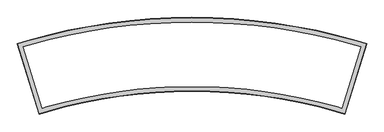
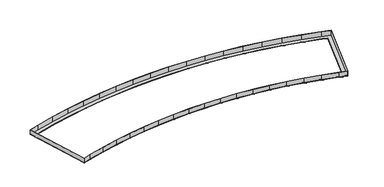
"""IFC4 building model written with IfcOpenShell, lengths in millimetres: proxy geometry, Techno_Конвектор встраиваемый_Usual_KVZ_R-250_85 : KVZ R 250-85_П."""

from ifc_helpers import new_model, si_unit, frame, origin, place, context, project, spatial, ellipse_curve, source, transform, mapped, element, save
from ifc_brep_helpers import plane_surface, cylinder_surface, advanced_brep


def mechanical_equipment_65362983(model_context):
    return source(origin(), model_context, "Body", "AdvancedBrep", [
        advanced_brep(
        [(1071.2645086, 26.0483001, -19.3), (1071.2645086, 26.0483001, -20.5), (1007.5518166, -182.4335765, -20.5), (1007.5518166, -182.4335765, -19.3), (1089.7437729, 35.8766668, 0.0), (1089.7437729, 35.8766668, -19.3), (1017.3801833, -200.9128408, -19.3), (1017.3801833, -200.9128408, 0.0), (1091.2420916, 36.6735614, -18.5), (1091.2420916, 36.6735614, 0.0), (1018.1770778, -202.4111595, 0.0), (1018.1770778, -202.4111595, -18.5), (-7.5518166, -182.4335765, -19.3), (-7.5518166, -182.4335765, -20.5), (-71.2645086, 26.0483001, -20.5), (-71.2645086, 26.0483001, -19.3), (-17.3801833, -200.9128408, 0.0), (-17.3801833, -200.9128408, -19.3), (-89.7437729, 35.8766668, -19.3), (-89.7437729, 35.8766668, 0.0), (-18.1770778, -202.4111595, -18.5), (-18.1770778, -202.4111595, 0.0), (-91.2420916, 36.6735614, 0.0), (-91.2420916, 36.6735614, -18.5), (1088.7448938, 35.3454037, -20.5), (1016.8489202, -199.9139616, -20.5), (-16.8489202, -199.9139616, -20.5), (-88.7448938, 35.3454037, -20.5), (-57.4855296, 46.9896688, -18.5), (-56.9343823, 45.0667922, -20.5), (-53.0763509, 31.6066561, -20.5), (-53.0763509, 31.6066561, -19.3), (-57.1548412, 45.8359429, -19.3), (-57.1548412, 45.8359429, 0.0), (-57.4855296, 46.9896688, 0.0), (10.7062704, 65.2540777, -18.5), (11.1900012, 63.3131444, -20.5), (14.576117, 49.726611, -20.5), (14.576117, 49.726611, -19.3), (10.9965089, 64.0895177, -19.3), (10.9965089, 64.0895177, 0.0), (10.7062704, 65.2540777, 0.0), (988.5921127, -193.3699047, -18.5), (989.14326, -191.4470281, -20.5), (993.0012914, -177.986892, -20.5), (993.0012914, -177.986892, -19.3), (988.9228011, -192.2161787, -19.3), (988.9228011, -192.2161787, 0.0), (988.5921127, -193.3699047, 0.0), (928.8273765, -177.3625903, -18.5), (929.3111073, -175.421657, -20.5), (932.6972231, -161.8351236, -20.5), (932.6972231, -161.8351236, -19.3), (929.117615, -176.1980303, -19.3), (929.117615, -176.1980303, 0.0), (928.8273765, -177.3625903, 0.0), (79.4937304, 81.1284458, -18.5), (79.9094559, 79.1718185, -20.5), (82.8195338, 65.4754279, -20.5), (82.8195338, 65.4754279, -19.3), (79.7431657, 79.9544694, -19.3), (79.7431657, 79.9544694, 0.0), (79.4937304, 81.1284458, 0.0), (868.5405912, -163.4499583, -18.5), (868.9563166, -161.4933311, -20.5), (871.8663946, -147.7969405, -20.5), (871.8663946, -147.7969405, -19.3), (868.7900264, -162.275982, -19.3), (868.7900264, -162.275982, 0.0), (868.5405912, -163.4499583, 0.0), (148.7931095, 94.5934477, -18.5), (149.1403234, 92.6235085, -20.5), (151.570821, 78.8339345, -20.5), (151.570821, 78.8339345, -19.3), (149.0014379, 93.4114842, -19.3), (149.0014379, 93.4114842, 0.0), (148.7931095, 94.5934477, 0.0), (218.5200435, 105.6326913, -18.5), (218.7983232, 103.6518384, -20.5), (220.7462814, 89.7858682, -20.5), (220.7462814, 89.7858682, -19.3), (218.6870113, 104.4441796, -19.3), (218.6870113, 104.4441796, 0.0), (218.5200435, 105.6326913, 0.0), (807.8051492, -151.6489458, -18.5), (808.1523631, -149.6790066, -20.5), (810.5828606, -135.8894326, -20.5), (810.5828606, -135.8894326, -19.3), (808.0134776, -150.4669823, -19.3), (808.0134776, -150.4669823, 0.0), (807.8051492, -151.6489458, 0.0), (746.6949891, -141.9739191, -18.5), (746.9732688, -139.9930662, -20.5), (748.921227, -126.127096, -20.5), (748.921227, -126.127096, -19.3), (746.8619569, -140.7854074, -19.3), (746.8619569, -140.7854074, 0.0), (746.6949891, -141.9739191, 0.0), (288.5896476, 114.2327376, -18.5), (288.7986544, 112.2433825, -20.5), (290.2617018, 98.3178964, -20.5), (290.2617018, 98.3178964, -19.3), (288.7150516, 113.0391246, -19.3), (288.7150516, 113.0391246, 0.0), (288.5896476, 114.2327376, 0.0), (358.91662, 120.3831171, -18.5), (359.0560994, 118.3876815, -20.5), (360.0324549, 104.4196323, -20.5), (360.0324549, 104.4196323, -19.3), (359.0003076, 119.1858557, -19.3), (359.0003076, 119.1858557, 0.0), (358.91662, 120.3831171, 0.0), (429.4153456, 124.0763423, -18.5), (429.4851277, 122.0772555, -20.5), (429.9736028, 108.0836476, -20.5), (429.9736028, 108.0836476, -19.3), (429.4572149, 122.8768902, -19.3), (429.4572149, 122.8768902, 0.0), (429.4153456, 124.0763423, 0.0), (500.0, 125.3079171, -18.5), (500.0, 123.3076127, -20.5), (500.0, 109.3054818, -20.5), (500.0, 109.3054818, -19.3), (500.0, 124.1077345, -19.3), (500.0, 124.1077345, 0.0), (500.0, 125.3079171, 0.0), (570.5846544, 124.0763423, -18.5), (570.5148723, 122.0772555, -20.5), (570.0263972, 108.0836476, -20.5), (570.0263972, 108.0836476, -19.3), (570.5427851, 122.8768902, -19.3), (570.5427851, 122.8768902, 0.0), (570.5846544, 124.0763423, 0.0), (685.2845056, -134.4366565, -18.5), (685.4935124, -132.4473014, -20.5), (686.9565598, -118.5218153, -20.5), (686.9565598, -118.5218153, -19.3), (685.4099097, -133.2430434, -19.3), (685.4099097, -133.2430434, 0.0), (685.2845056, -134.4366565, 0.0), (623.6484591, -129.0463338, -18.5), (623.7879385, -127.0508982, -20.5), (624.764294, -113.082849, -20.5), (624.764294, -113.082849, -19.3), (623.7321467, -127.8490725, -19.3), (623.7321467, -127.8490725, 0.0), (623.6484591, -129.0463338, 0.0), (561.8618845, -125.8095131, -18.5), (561.9316666, -123.8104263, -20.5), (562.4201418, -109.8168184, -20.5), (562.4201418, -109.8168184, -19.3), (561.9037538, -124.610061, -19.3), (561.9037538, -124.610061, 0.0), (561.8618845, -125.8095131, 0.0), (500.0, -124.7301349, -18.5), (500.0, -122.7298305, -20.5), (500.0, -108.7276996, -20.5), (500.0, -108.7276996, -19.3), (500.0, -123.5299523, -19.3), (500.0, -123.5299523, 0.0), (500.0, -124.7301349, 0.0), (438.1381155, -125.8095131, -18.5), (438.0683334, -123.8104263, -20.5), (437.5798582, -109.8168184, -20.5), (437.5798582, -109.8168184, -19.3), (438.0962462, -124.610061, -19.3), (438.0962462, -124.610061, 0.0), (438.1381155, -125.8095131, 0.0), (641.08338, 120.3831171, -18.5), (640.9439006, 118.3876815, -20.5), (639.9675451, 104.4196323, -20.5), (639.9675451, 104.4196323, -19.3), (640.9996924, 119.1858557, -19.3), (640.9996924, 119.1858557, 0.0), (641.08338, 120.3831171, 0.0), (711.4103524, 114.2327376, -18.5), (711.2013456, 112.2433825, -20.5), (709.7382982, 98.3178964, -20.5), (709.7382982, 98.3178964, -19.3), (711.2849484, 113.0391246, -19.3), (711.2849484, 113.0391246, 0.0), (711.4103524, 114.2327376, 0.0), (781.4799565, 105.6326913, -18.5), (781.2016768, 103.6518384, -20.5), (779.2537186, 89.7858682, -20.5), (779.2537186, 89.7858682, -19.3), (781.3129887, 104.4441796, -19.3), (781.3129887, 104.4441796, 0.0), (781.4799565, 105.6326913, 0.0), (851.2068905, 94.5934477, -18.5), (850.8596766, 92.6235085, -20.5), (848.429179, 78.8339345, -20.5), (848.429179, 78.8339345, -19.3), (850.9985621, 93.4114842, -19.3), (850.9985621, 93.4114842, 0.0), (851.2068905, 94.5934477, 0.0), (920.5062696, 81.1284458, -18.5), (920.0905441, 79.1718185, -20.5), (917.1804662, 65.4754279, -20.5), (917.1804662, 65.4754279, -19.3), (920.2568343, 79.9544694, -19.3), (920.2568343, 79.9544694, 0.0), (920.5062696, 81.1284458, 0.0), (989.2937296, 65.2540777, -18.5), (988.8099988, 63.3131444, -20.5), (985.423883, 49.726611, -20.5), (985.423883, 49.726611, -19.3), (989.0034911, 64.0895177, -19.3), (989.0034911, 64.0895177, 0.0), (989.2937296, 65.2540777, 0.0), (1057.4855296, 46.9896688, -18.5), (1056.9343823, 45.0667922, -20.5), (1053.0763509, 31.6066561, -20.5), (1053.0763509, 31.6066561, -19.3), (1057.1548412, 45.8359429, -19.3), (1057.1548412, 45.8359429, 0.0), (1057.4855296, 46.9896688, 0.0), (376.3515409, -129.0463338, -18.5), (376.2120615, -127.0508982, -20.5), (375.235706, -113.082849, -20.5), (375.235706, -113.082849, -19.3), (376.2678533, -127.8490725, -19.3), (376.2678533, -127.8490725, 0.0), (376.3515409, -129.0463338, 0.0), (314.7154944, -134.4366565, -18.5), (314.5064876, -132.4473014, -20.5), (313.0434402, -118.5218153, -20.5), (313.0434402, -118.5218153, -19.3), (314.5900903, -133.2430434, -19.3), (314.5900903, -133.2430434, 0.0), (314.7154944, -134.4366565, 0.0), (253.3050109, -141.9739191, -18.5), (253.0267312, -139.9930662, -20.5), (251.078773, -126.127096, -20.5), (251.078773, -126.127096, -19.3), (253.1380431, -140.7854074, -19.3), (253.1380431, -140.7854074, 0.0), (253.3050109, -141.9739191, 0.0), (192.1948508, -151.6489458, -18.5), (191.8476369, -149.6790066, -20.5), (189.4171394, -135.8894326, -20.5), (189.4171394, -135.8894326, -19.3), (191.9865224, -150.4669823, -19.3), (191.9865224, -150.4669823, 0.0), (192.1948508, -151.6489458, 0.0), (131.4594088, -163.4499583, -18.5), (131.0436834, -161.4933311, -20.5), (128.1336054, -147.7969405, -20.5), (128.1336054, -147.7969405, -19.3), (131.2099736, -162.275982, -19.3), (131.2099736, -162.275982, 0.0), (131.4594088, -163.4499583, 0.0), (71.1726235, -177.3625903, -18.5), (70.6888927, -175.421657, -20.5), (67.3027769, -161.8351236, -20.5), (67.3027769, -161.8351236, -19.3), (70.882385, -176.1980303, -19.3), (70.882385, -176.1980303, 0.0), (71.1726235, -177.3625903, 0.0), (11.4078873, -193.3699047, -18.5), (10.85674, -191.4470281, -20.5), (6.9987086, -177.986892, -20.5), (6.9987086, -177.986892, -19.3), (11.0771989, -192.2161787, -19.3), (11.0771989, -192.2161787, 0.0), (11.4078873, -193.3699047, 0.0)],
        [
            (0, 1),
            (1, 2),
            (2, 3),
            (3, 0),
            (4, 5),
            (5, 6),
            (6, 7),
            (7, 4),
            (8, 9),
            (9, 10),
            (10, 11),
            (11, 8),
            (12, 13),
            (13, 14),
            (14, 15),
            (15, 12),
            (16, 17),
            (17, 18),
            (18, 19),
            (19, 16),
            (20, 21),
            (21, 22),
            (22, 23),
            (23, 20),
            (24, 8, ellipse_curve(frame((1088.7448938, 35.3454037, -18.5), z_axis=(0.46957464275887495, -0.882892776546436, 0.0), x_axis=(0.882892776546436, 0.46957464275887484, 0.0)), 2.8284271, 2.0)),
            (11, 25, ellipse_curve(frame((1016.8489202, -199.9139616, -18.5), z_axis=(0.8828927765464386, 0.4695746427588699, 0.0), x_axis=(-0.4695746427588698, 0.8828927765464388, 0.0)), 2.8284271, 2.0)),
            (25, 24),
            (26, 20, ellipse_curve(frame((-16.8489202, -199.9139616, -18.5), z_axis=(-0.8828927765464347, 0.46957464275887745, 0.0), x_axis=(-0.46957464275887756, -0.8828927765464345, 0.0)), 2.8284271, 2.0)),
            (23, 27, ellipse_curve(frame((-88.7448938, 35.3454037, -18.5), z_axis=(-0.4695746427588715, -0.8828927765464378, 0.0), x_axis=(0.8828927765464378, -0.4695746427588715, 0.0)), 2.8284271, 2.0)),
            (27, 26),
            (23, 28),
            (28, 29, ellipse_curve(frame((-56.9343823, 45.0667922, -18.5), z_axis=(-0.9612919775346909, -0.2755317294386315, 0.0), x_axis=(0.27553172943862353, -0.9612919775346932, 0.0)), 2.0003044, 2.0)),
            (29, 27),
            (14, 30),
            (30, 31),
            (31, 15),
            (18, 32),
            (32, 33),
            (33, 19),
            (22, 34),
            (34, 28),
            (28, 35),
            (35, 36, ellipse_curve(frame((11.1900012, 63.3131444, -18.5), z_axis=(-0.970318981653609, -0.24182860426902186, 0.0), x_axis=(0.24182860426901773, -0.9703189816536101, 0.0)), 2.0003044, 2.0)),
            (36, 29),
            (30, 37),
            (37, 38),
            (38, 31),
            (32, 39),
            (39, 40),
            (40, 33),
            (34, 41),
            (41, 35),
            (11, 42),
            (42, 43, ellipse_curve(frame((989.14326, -191.4470281, -18.5), z_axis=(0.9612919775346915, -0.2755317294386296, 0.0), x_axis=(-0.2755317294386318, -0.961291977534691, 0.0)), 2.0003044, 2.0)),
            (43, 25),
            (2, 44),
            (44, 45),
            (45, 3),
            (6, 46),
            (46, 47),
            (47, 7),
            (10, 48),
            (48, 42),
            (42, 49),
            (49, 50, ellipse_curve(frame((929.3111073, -175.421657, -18.5), z_axis=(0.9703189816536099, -0.24182860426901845, 0.0), x_axis=(-0.24182860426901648, -0.9703189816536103, 0.0)), 2.0003044, 2.0)),
            (50, 43),
            (44, 51),
            (51, 52),
            (52, 45),
            (46, 53),
            (53, 54),
            (54, 47),
            (48, 55),
            (55, 49),
            (35, 56),
            (56, 57, ellipse_curve(frame((79.9094559, 79.1718185, -18.5), z_axis=(-0.9781647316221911, -0.20783107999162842, 0.0), x_axis=(0.20783107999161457, -0.9781647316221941, 0.0)), 2.0003044, 2.0)),
            (57, 36),
            (37, 58),
            (58, 59),
            (59, 38),
            (39, 60),
            (60, 61),
            (61, 40),
            (41, 62),
            (62, 56),
            (49, 63),
            (63, 64, ellipse_curve(frame((868.9563166, -161.4933311, -18.5), z_axis=(0.9781647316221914, -0.20783107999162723, 0.0), x_axis=(-0.20783107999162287, -0.9781647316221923, 0.0)), 2.0003044, 2.0)),
            (64, 50),
            (51, 65),
            (65, 66),
            (66, 52),
            (53, 67),
            (67, 68),
            (68, 54),
            (55, 69),
            (69, 63),
            (56, 70),
            (70, 71, ellipse_curve(frame((149.1403234, 92.6235085, -18.5), z_axis=(-0.9848196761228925, -0.17358054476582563, 0.0), x_axis=(0.1735805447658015, -0.9848196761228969, 0.0)), 2.0003044, 2.0)),
            (71, 57),
            (58, 72),
            (72, 73),
            (73, 59),
            (60, 74),
            (74, 75),
            (75, 61),
            (62, 76),
            (76, 70),
            (70, 77),
            (77, 78, ellipse_curve(frame((218.7983232, 103.6518384, -18.5), z_axis=(-0.9902757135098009, -0.13911869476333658, 0.0), x_axis=(0.13911869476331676, -0.9902757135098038, 0.0)), 2.0003044, 2.0)),
            (78, 71),
            (72, 79),
            (79, 80),
            (80, 73),
            (74, 81),
            (81, 82),
            (82, 75),
            (76, 83),
            (83, 77),
            (63, 84),
            (84, 85, ellipse_curve(frame((808.1523631, -149.6790066, -18.5), z_axis=(0.9848196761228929, -0.1735805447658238, 0.0), x_axis=(-0.17358054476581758, -0.9848196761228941, 0.0)), 2.0003044, 2.0)),
            (85, 64),
            (65, 86),
            (86, 87),
            (87, 66),
            (67, 88),
            (88, 89),
            (89, 68),
            (69, 90),
            (90, 84),
            (84, 91),
            (91, 92, ellipse_curve(frame((746.9732688, -139.9930662, -18.5), z_axis=(0.9902757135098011, -0.139118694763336, 0.0), x_axis=(-0.13911869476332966, -0.9902757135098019, 0.0)), 2.0003044, 2.0)),
            (92, 85),
            (86, 93),
            (93, 94),
            (94, 87),
            (88, 95),
            (95, 96),
            (96, 89),
            (90, 97),
            (97, 91),
            (77, 98),
            (98, 99, ellipse_curve(frame((288.7986544, 112.2433825, -18.5), z_axis=(-0.9945262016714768, -0.104487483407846, 0.0), x_axis=(0.104487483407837, -0.9945262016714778, 0.0)), 2.0003044, 2.0)),
            (99, 78),
            (79, 100),
            (100, 101),
            (101, 80),
            (81, 102),
            (102, 103),
            (103, 82),
            (83, 104),
            (104, 98),
            (98, 105),
            (105, 106, ellipse_curve(frame((359.0560994, 118.3876815, -18.5), z_axis=(-0.9975659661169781, -0.06972907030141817, 0.0), x_axis=(0.0697290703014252, -0.9975659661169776, 0.0)), 2.0003044, 2.0)),
            (106, 99),
            (100, 107),
            (107, 108),
            (108, 101),
            (102, 109),
            (109, 110),
            (110, 103),
            (104, 111),
            (111, 105),
            (105, 112),
            (112, 113, ellipse_curve(frame((429.4851277, 122.0772555, -18.5), z_axis=(-0.9993913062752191, -0.03488576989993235, 0.0), x_axis=(0.034885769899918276, -0.9993913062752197, 0.0)), 2.0003044, 2.0)),
            (113, 106),
            (107, 114),
            (114, 115),
            (115, 108),
            (109, 116),
            (116, 117),
            (117, 110),
            (111, 118),
            (118, 112),
            (112, 119),
            (119, 120, ellipse_curve(frame((500.0, 123.3076127, -18.5), z_axis=(-1.0, 0.0, 0.0), x_axis=(0.0, -1.0, 0.0)), 2.0003044, 2.0)),
            (120, 113),
            (114, 121),
            (121, 122),
            (122, 115),
            (116, 123),
            (123, 124),
            (124, 117),
            (118, 125),
            (125, 119),
            (119, 126),
            (126, 127, ellipse_curve(frame((570.5148723, 122.0772555, -18.5), z_axis=(-0.9993913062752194, 0.034885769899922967, 0.0), x_axis=(-0.03488576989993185, -0.9993913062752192, 0.0)), 2.0003044, 2.0)),
            (127, 120),
            (121, 128),
            (128, 129),
            (129, 122),
            (123, 130),
            (130, 131),
            (131, 124),
            (125, 132),
            (132, 126),
            (91, 133),
            (133, 134, ellipse_curve(frame((685.4935124, -132.4473014, -18.5), z_axis=(0.9945262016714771, -0.10448748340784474, 0.0), x_axis=(-0.10448748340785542, -0.9945262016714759, 0.0)), 2.0003044, 2.0)),
            (134, 92),
            (93, 135),
            (135, 136),
            (136, 94),
            (95, 137),
            (137, 138),
            (138, 96),
            (97, 139),
            (139, 133),
            (133, 140),
            (140, 141, ellipse_curve(frame((623.7879385, -127.0508982, -18.5), z_axis=(0.9975659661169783, -0.06972907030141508, 0.0), x_axis=(-0.06972907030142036, -0.997565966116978, 0.0)), 2.0003044, 2.0)),
            (141, 134),
            (135, 142),
            (142, 143),
            (143, 136),
            (137, 144),
            (144, 145),
            (145, 138),
            (139, 146),
            (146, 140),
            (140, 147),
            (147, 148, ellipse_curve(frame((561.9316666, -123.8104263, -18.5), z_axis=(0.9993913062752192, -0.03488576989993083, 0.0), x_axis=(-0.03488576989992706, -0.9993913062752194, 0.0)), 2.0003044, 2.0)),
            (148, 141),
            (142, 149),
            (149, 150),
            (150, 143),
            (144, 151),
            (151, 152),
            (152, 145),
            (146, 153),
            (153, 147),
            (147, 154),
            (154, 155, ellipse_curve(frame((500.0, -122.7298305, -18.5), z_axis=(1.0, 0.0, 0.0), x_axis=(0.0, -1.0, 0.0)), 2.0003044, 2.0)),
            (155, 148),
            (149, 156),
            (156, 157),
            (157, 150),
            (151, 158),
            (158, 159),
            (159, 152),
            (153, 160),
            (160, 154),
            (154, 161),
            (161, 162, ellipse_curve(frame((438.0683334, -123.8104263, -18.5), z_axis=(0.9993913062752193, 0.03488576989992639, 0.0), x_axis=(0.03488576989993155, -0.9993913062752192, 0.0)), 2.0003044, 2.0)),
            (162, 155),
            (156, 163),
            (163, 164),
            (164, 157),
            (158, 165),
            (165, 166),
            (166, 159),
            (160, 167),
            (167, 161),
            (126, 168),
            (168, 169, ellipse_curve(frame((640.9439006, 118.3876815, -18.5), z_axis=(-0.9975659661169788, 0.06972907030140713, 0.0), x_axis=(-0.06972907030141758, -0.997565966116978, 0.0)), 2.0003044, 2.0)),
            (169, 127),
            (128, 170),
            (170, 171),
            (171, 129),
            (130, 172),
            (172, 173),
            (173, 131),
            (132, 174),
            (174, 168),
            (168, 175),
            (175, 176, ellipse_curve(frame((711.2013456, 112.2433825, -18.5), z_axis=(-0.9945262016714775, 0.10448748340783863, 0.0), x_axis=(-0.10448748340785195, -0.9945262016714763, 0.0)), 2.0003044, 2.0)),
            (176, 169),
            (170, 177),
            (177, 178),
            (178, 171),
            (172, 179),
            (179, 180),
            (180, 173),
            (174, 181),
            (181, 175),
            (175, 182),
            (182, 183, ellipse_curve(frame((781.2016768, 103.6518384, -18.5), z_axis=(-0.9902757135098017, 0.13911869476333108, 0.0), x_axis=(-0.13911869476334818, -0.9902757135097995, 0.0)), 2.0003044, 2.0)),
            (183, 176),
            (177, 184),
            (184, 185),
            (185, 178),
            (179, 186),
            (186, 187),
            (187, 180),
            (181, 188),
            (188, 182),
            (182, 189),
            (189, 190, ellipse_curve(frame((850.8596766, 92.6235085, -18.5), z_axis=(-0.9848196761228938, 0.1735805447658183, 0.0), x_axis=(-0.17358054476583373, -0.9848196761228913, 0.0)), 2.0003044, 2.0)),
            (190, 183),
            (184, 191),
            (191, 192),
            (192, 185),
            (186, 193),
            (193, 194),
            (194, 187),
            (188, 195),
            (195, 189),
            (189, 196),
            (196, 197, ellipse_curve(frame((920.0905441, 79.1718185, -18.5), z_axis=(-0.9781647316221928, 0.2078310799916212, 0.0), x_axis=(-0.20783107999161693, -0.9781647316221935, 0.0)), 2.0003044, 2.0)),
            (197, 190),
            (191, 198),
            (198, 199),
            (199, 192),
            (193, 200),
            (200, 201),
            (201, 194),
            (195, 202),
            (202, 196),
            (196, 203),
            (203, 204, ellipse_curve(frame((988.8099988, 63.3131444, -18.5), z_axis=(-0.9703189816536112, 0.24182860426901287, 0.0), x_axis=(-0.2418286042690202, -0.9703189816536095, 0.0)), 2.0003044, 2.0)),
            (204, 197),
            (198, 205),
            (205, 206),
            (206, 199),
            (200, 207),
            (207, 208),
            (208, 201),
            (202, 209),
            (209, 203),
            (203, 210),
            (210, 211, ellipse_curve(frame((1056.9343823, 45.0667922, -18.5), z_axis=(-0.9612919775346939, 0.2755317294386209, 0.0), x_axis=(-0.27553172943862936, -0.9612919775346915, 0.0)), 2.0003044, 2.0)),
            (211, 204),
            (205, 212),
            (212, 213),
            (213, 206),
            (207, 214),
            (214, 215),
            (215, 208),
            (209, 216),
            (216, 210),
            (161, 217),
            (217, 218, ellipse_curve(frame((376.2120615, -127.0508982, -18.5), z_axis=(0.9975659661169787, 0.0697290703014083, 0.0), x_axis=(0.06972907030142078, -0.9975659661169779, 0.0)), 2.0003044, 2.0)),
            (218, 162),
            (163, 219),
            (219, 220),
            (220, 164),
            (165, 221),
            (221, 222),
            (222, 166),
            (167, 223),
            (223, 217),
            (217, 224),
            (224, 225, ellipse_curve(frame((314.5064876, -132.4473014, -18.5), z_axis=(0.9945262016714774, 0.10448748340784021, 0.0), x_axis=(0.104487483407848, -0.9945262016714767, 0.0)), 2.0003044, 2.0)),
            (225, 218),
            (219, 226),
            (226, 227),
            (227, 220),
            (221, 228),
            (228, 229),
            (229, 222),
            (223, 230),
            (230, 224),
            (224, 231),
            (231, 232, ellipse_curve(frame((253.0267312, -139.9930662, -18.5), z_axis=(0.9902757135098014, 0.13911869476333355, 0.0), x_axis=(0.13911869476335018, -0.9902757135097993, 0.0)), 2.0003044, 2.0)),
            (232, 225),
            (226, 233),
            (233, 234),
            (234, 227),
            (228, 235),
            (235, 236),
            (236, 229),
            (230, 237),
            (237, 231),
            (231, 238),
            (238, 239, ellipse_curve(frame((191.8476369, -149.6790066, -18.5), z_axis=(0.9848196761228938, 0.17358054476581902, 0.0), x_axis=(0.17358054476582, -0.9848196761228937, 0.0)), 2.0003044, 2.0)),
            (239, 232),
            (233, 240),
            (240, 241),
            (241, 234),
            (235, 242),
            (242, 243),
            (243, 236),
            (237, 244),
            (244, 238),
            (238, 245),
            (245, 246, ellipse_curve(frame((131.0436834, -161.4933311, -18.5), z_axis=(0.9781647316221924, 0.20783107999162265, 0.0), x_axis=(0.207831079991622, -0.9781647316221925, 0.0)), 2.0003044, 2.0)),
            (246, 239),
            (240, 247),
            (247, 248),
            (248, 241),
            (242, 249),
            (249, 250),
            (250, 243),
            (244, 251),
            (251, 245),
            (245, 252),
            (252, 253, ellipse_curve(frame((70.6888927, -175.421657, -18.5), z_axis=(0.9703189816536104, 0.2418286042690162, 0.0), x_axis=(0.24182860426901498, -0.9703189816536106, 0.0)), 2.0003044, 2.0)),
            (253, 246),
            (247, 254),
            (254, 255),
            (255, 248),
            (249, 256),
            (256, 257),
            (257, 250),
            (251, 258),
            (258, 252),
            (252, 259),
            (259, 260, ellipse_curve(frame((10.85674, -191.4470281, -18.5), z_axis=(0.9612919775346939, 0.27553172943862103, 0.0), x_axis=(0.27553172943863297, -0.9612919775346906, 0.0)), 2.0003044, 2.0)),
            (260, 253),
            (254, 261),
            (261, 262),
            (262, 255),
            (256, 263),
            (263, 264),
            (264, 257),
            (258, 265),
            (265, 259),
            (210, 8),
            (24, 211),
            (212, 1),
            (0, 213),
            (214, 5),
            (4, 215),
            (216, 9),
            (259, 20),
            (26, 260),
            (13, 261),
            (12, 262),
            (17, 263),
            (16, 264),
            (21, 265),
        ],
        [
            plane_surface(frame((1071.2645086, 26.0483001, -20.5), z_axis=(-0.9563388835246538, 0.29226005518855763, 0.0), x_axis=(-0.29226005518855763, -0.9563388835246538, 0.0))),
            plane_surface(frame((1089.7437729, 35.8766668, -19.3), z_axis=(-0.9563388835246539, 0.29226005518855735, 0.0), x_axis=(-0.29226005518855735, -0.9563388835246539, 0.0))),
            plane_surface(frame((1091.2420916, 36.6735614, 0.0), z_axis=(0.9563388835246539, -0.2922600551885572, 0.0), x_axis=(-0.2922600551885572, -0.9563388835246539, 0.0))),
            plane_surface(frame((-7.5518166, -182.4335765, -20.5), z_axis=(0.9563388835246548, 0.2922600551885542, 0.0), x_axis=(-0.2922600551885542, 0.9563388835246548, 0.0))),
            plane_surface(frame((-17.3801833, -200.9128408, -19.3), z_axis=(0.9563388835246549, 0.29226005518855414, 0.0), x_axis=(-0.29226005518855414, 0.9563388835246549, 0.0))),
            plane_surface(frame((-18.1770778, -202.4111595, 0.0), z_axis=(-0.9563388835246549, -0.2922600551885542, 0.0), x_axis=(-0.2922600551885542, 0.9563388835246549, 0.0))),
            cylinder_surface(frame((1089.3294139, 37.2580815, -18.5), z_axis=(0.2922600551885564, 0.9563388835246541, 0.0), x_axis=(0.9563388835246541, -0.2922600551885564, 0.0)), 2.0),
            cylinder_surface(frame((-16.2644001, -201.8266394, -18.5), z_axis=(0.29226005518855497, -0.9563388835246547, 0.0), x_axis=(-0.9563388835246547, -0.29226005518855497, 0.0)), 2.0),
            cylinder_surface(frame((-90.6575715, 34.7608836, -18.5), z_axis=(-0.9563388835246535, -0.29226005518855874, 0.0), x_axis=(-0.29226005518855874, 0.9563388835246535, 0.0)), 2.0),
            plane_surface(frame((-71.2645086, 26.0483001, -20.5), z_axis=(0.2922600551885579, -0.9563388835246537, 0.0), x_axis=(0.9563388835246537, 0.2922600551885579, 0.0))),
            plane_surface(frame((-89.7437729, 35.8766668, -19.3), z_axis=(0.2922600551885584, -0.9563388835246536, 0.0), x_axis=(0.9563388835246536, 0.2922600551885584, 0.0))),
            plane_surface(frame((-91.2420916, 36.6735614, 0.0), z_axis=(-0.292260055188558, 0.9563388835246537, 0.0), x_axis=(0.9563388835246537, 0.292260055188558, 0.0))),
            cylinder_surface(frame((-56.9680905, 45.0577639, -18.5), z_axis=(-0.9659524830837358, -0.2587195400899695, 0.0), x_axis=(-0.2587195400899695, 0.9659524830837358, 0.0)), 2.0),
            plane_surface(frame((-53.0763509, 31.6066561, -20.5), z_axis=(0.2587195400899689, -0.9659524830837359, 0.0), x_axis=(0.9659524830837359, 0.2587195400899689, 0.0))),
            plane_surface(frame((-57.1548412, 45.8359429, -19.3), z_axis=(0.2587195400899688, -0.9659524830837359, 0.0), x_axis=(0.9659524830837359, 0.2587195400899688, 0.0))),
            plane_surface(frame((-57.4855296, 46.9896688, 0.0), z_axis=(-0.25871954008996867, 0.9659524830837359, 0.0), x_axis=(0.9659524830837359, 0.25871954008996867, 0.0))),
            cylinder_surface(frame((1018.761598, -200.4984817, -18.5), z_axis=(0.9563388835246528, -0.2922600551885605, 0.0), x_axis=(-0.2922600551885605, -0.9563388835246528, 0.0)), 2.0),
            plane_surface(frame((1007.5518166, -182.4335765, -20.5), z_axis=(0.29226005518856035, 0.9563388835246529, 0.0), x_axis=(-0.9563388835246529, 0.29226005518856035, 0.0))),
            plane_surface(frame((1017.3801833, -200.9128408, -19.3), z_axis=(0.29226005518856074, 0.9563388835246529, 0.0), x_axis=(-0.9563388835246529, 0.29226005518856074, 0.0))),
            plane_surface(frame((1018.1770778, -202.4111595, 0.0), z_axis=(-0.2922600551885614, -0.9563388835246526, 0.0), x_axis=(-0.9563388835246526, 0.2922600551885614, 0.0))),
            cylinder_surface(frame((989.1095518, -191.4379997, -18.5), z_axis=(0.9659524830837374, -0.2587195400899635, 0.0), x_axis=(-0.2587195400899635, -0.9659524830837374, 0.0)), 2.0),
            plane_surface(frame((993.0012914, -177.986892, -20.5), z_axis=(0.2587195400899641, 0.9659524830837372, 0.0), x_axis=(-0.9659524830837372, 0.2587195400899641, 0.0))),
            plane_surface(frame((988.9228011, -192.2161787, -19.3), z_axis=(0.2587195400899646, 0.965952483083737, 0.0), x_axis=(-0.965952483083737, 0.2587195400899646, 0.0))),
            plane_surface(frame((988.5921127, -193.3699047, 0.0), z_axis=(-0.2587195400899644, -0.965952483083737, 0.0), x_axis=(-0.965952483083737, 0.2587195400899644, 0.0))),
            cylinder_surface(frame((11.1559985, 63.3052974, -18.5), z_axis=(-0.9743901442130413, -0.2248640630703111, 0.0), x_axis=(-0.2248640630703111, 0.9743901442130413, 0.0)), 2.0),
            plane_surface(frame((14.576117, 49.726611, -20.5), z_axis=(0.22486406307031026, -0.9743901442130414, 0.0), x_axis=(0.9743901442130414, 0.22486406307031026, 0.0))),
            plane_surface(frame((10.9965089, 64.0895177, -19.3), z_axis=(0.22486406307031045, -0.9743901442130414, 0.0), x_axis=(0.9743901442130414, 0.22486406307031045, 0.0))),
            plane_surface(frame((10.7062704, 65.2540777, 0.0), z_axis=(-0.22486406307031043, 0.9743901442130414, 0.0), x_axis=(0.9743901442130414, 0.22486406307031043, 0.0))),
            cylinder_surface(frame((929.2771046, -175.41381, -18.5), z_axis=(0.9743901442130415, -0.22486406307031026, 0.0), x_axis=(-0.22486406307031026, -0.9743901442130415, 0.0)), 2.0),
            plane_surface(frame((932.6972231, -161.8351236, -20.5), z_axis=(0.22486406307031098, 0.9743901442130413, 0.0), x_axis=(-0.9743901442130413, 0.22486406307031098, 0.0))),
            plane_surface(frame((929.117615, -176.1980303, -19.3), z_axis=(0.2248640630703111, 0.9743901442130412, 0.0), x_axis=(-0.9743901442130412, 0.2248640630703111, 0.0))),
            plane_surface(frame((928.8273765, -177.3625903, 0.0), z_axis=(-0.22486406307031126, -0.9743901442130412, 0.0), x_axis=(-0.9743901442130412, 0.22486406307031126, 0.0))),
            cylinder_surface(frame((79.8752001, 79.1651626, -18.5), z_axis=(-0.9816415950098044, -0.1907348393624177, 0.0), x_axis=(-0.1907348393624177, 0.9816415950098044, 0.0)), 2.0),
            plane_surface(frame((82.8195338, 65.4754279, -20.5), z_axis=(0.19073483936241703, -0.9816415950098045, 0.0), x_axis=(0.9816415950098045, 0.19073483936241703, 0.0))),
            plane_surface(frame((79.7431657, 79.9544694, -19.3), z_axis=(0.19073483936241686, -0.9816415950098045, 0.0), x_axis=(0.9816415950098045, 0.19073483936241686, 0.0))),
            plane_surface(frame((79.4937304, 81.1284458, 0.0), z_axis=(-0.190734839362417, 0.9816415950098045, 0.0), x_axis=(0.9816415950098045, 0.190734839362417, 0.0))),
            cylinder_surface(frame((149.1058563, 92.6180516, -18.5), z_axis=(-0.9876980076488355, -0.15637341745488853, 0.0), x_axis=(-0.15637341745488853, 0.9876980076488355, 0.0)), 2.0),
            plane_surface(frame((151.570821, 78.8339345, -20.5), z_axis=(0.15637341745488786, -0.9876980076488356, 0.0), x_axis=(0.9876980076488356, 0.15637341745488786, 0.0))),
            plane_surface(frame((149.0014379, 93.4114842, -19.3), z_axis=(0.15637341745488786, -0.9876980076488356, 0.0), x_axis=(0.9876980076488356, 0.15637341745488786, 0.0))),
            plane_surface(frame((148.7931095, 94.5934477, 0.0), z_axis=(-0.15637341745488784, 0.9876980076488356, 0.0), x_axis=(0.9876980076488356, 0.15637341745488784, 0.0))),
            cylinder_surface(frame((868.9220609, -161.4866751, -18.5), z_axis=(0.9816415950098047, -0.19073483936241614, 0.0), x_axis=(-0.19073483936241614, -0.9816415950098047, 0.0)), 2.0),
            plane_surface(frame((871.8663946, -147.7969405, -20.5), z_axis=(0.19073483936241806, 0.9816415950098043, 0.0), x_axis=(-0.9816415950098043, 0.19073483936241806, 0.0))),
            plane_surface(frame((868.7900264, -162.275982, -19.3), z_axis=(0.19073483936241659, 0.9816415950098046, 0.0), x_axis=(-0.9816415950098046, 0.19073483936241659, 0.0))),
            plane_surface(frame((868.5405912, -163.4499583, 0.0), z_axis=(-0.1907348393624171, -0.9816415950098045, 0.0), x_axis=(-0.9816415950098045, 0.1907348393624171, 0.0))),
            cylinder_surface(frame((808.117896, -149.6735498, -18.5), z_axis=(0.9876980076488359, -0.15637341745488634, 0.0), x_axis=(-0.15637341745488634, -0.9876980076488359, 0.0)), 2.0),
            plane_surface(frame((810.5828606, -135.8894326, -20.5), z_axis=(0.1563734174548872, 0.9876980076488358, 0.0), x_axis=(-0.9876980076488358, 0.1563734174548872, 0.0))),
            plane_surface(frame((808.0134776, -150.4669823, -19.3), z_axis=(0.15637341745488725, 0.9876980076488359, 0.0), x_axis=(-0.9876980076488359, 0.15637341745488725, 0.0))),
            plane_surface(frame((807.8051492, -151.6489458, 0.0), z_axis=(-0.1563734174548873, -0.9876980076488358, 0.0), x_axis=(-0.9876980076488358, 0.1563734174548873, 0.0))),
            cylinder_surface(frame((218.7636867, 103.6475873, -18.5), z_axis=(-0.9925520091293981, -0.12182162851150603, 0.0), x_axis=(-0.12182162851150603, 0.9925520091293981, 0.0)), 2.0),
            plane_surface(frame((220.7462814, 89.7858682, -20.5), z_axis=(0.12182162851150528, -0.9925520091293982, 0.0), x_axis=(0.9925520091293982, 0.12182162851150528, 0.0))),
            plane_surface(frame((218.6870113, 104.4441796, -19.3), z_axis=(0.12182162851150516, -0.9925520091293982, 0.0), x_axis=(0.9925520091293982, 0.12182162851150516, 0.0))),
            plane_surface(frame((218.5200435, 105.6326913, 0.0), z_axis=(-0.121821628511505, 0.9925520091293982, 0.0), x_axis=(0.9925520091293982, 0.121821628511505, 0.0))),
            cylinder_surface(frame((288.7638906, 112.2403423, -18.5), z_axis=(-0.9961976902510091, -0.08712153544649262, 0.0), x_axis=(-0.08712153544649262, 0.9961976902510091, 0.0)), 2.0),
            plane_surface(frame((290.2617018, 98.3178964, -20.5), z_axis=(0.08712153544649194, -0.9961976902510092, 0.0), x_axis=(0.9961976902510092, 0.08712153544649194, 0.0))),
            plane_surface(frame((288.7150516, 113.0391246, -19.3), z_axis=(0.0871215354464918, -0.9961976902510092, 0.0), x_axis=(0.9961976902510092, 0.0871215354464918, 0.0))),
            plane_surface(frame((288.5896476, 114.2327376, 0.0), z_axis=(-0.0871215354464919, 0.9961976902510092, 0.0), x_axis=(0.9961976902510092, 0.0871215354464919, 0.0))),
            cylinder_surface(frame((359.0212508, 118.3858559, -18.5), z_axis=(-0.9986306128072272, -0.05231538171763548, 0.0), x_axis=(-0.05231538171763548, 0.9986306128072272, 0.0)), 2.0),
            plane_surface(frame((360.0324549, 104.4196323, -20.5), z_axis=(0.052315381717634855, -0.9986306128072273, 0.0), x_axis=(0.9986306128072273, 0.052315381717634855, 0.0))),
            plane_surface(frame((359.0003076, 119.1858557, -19.3), z_axis=(0.052315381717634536, -0.9986306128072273, 0.0), x_axis=(0.9986306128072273, 0.052315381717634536, 0.0))),
            plane_surface(frame((358.91662, 120.3831171, 0.0), z_axis=(-0.052315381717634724, 0.9986306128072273, 0.0), x_axis=(0.9986306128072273, 0.052315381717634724, 0.0))),
            cylinder_surface(frame((429.4502366, 122.0766467, -18.5), z_axis=(-0.9998478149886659, -0.017445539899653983, 0.0), x_axis=(-0.017445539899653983, 0.9998478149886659, 0.0)), 2.0),
            plane_surface(frame((429.9736028, 108.0836476, -20.5), z_axis=(0.017445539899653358, -0.9998478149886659, 0.0), x_axis=(0.9998478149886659, 0.017445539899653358, 0.0))),
            plane_surface(frame((429.4572149, 122.8768902, -19.3), z_axis=(0.017445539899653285, -0.9998478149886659, 0.0), x_axis=(0.9998478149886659, 0.017445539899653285, 0.0))),
            plane_surface(frame((429.4153456, 124.0763423, 0.0), z_axis=(-0.01744553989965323, 0.9998478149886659, 0.0), x_axis=(0.9998478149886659, 0.01744553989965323, 0.0))),
            cylinder_surface(frame((499.9651089, 123.3082215, -18.5), z_axis=(-0.999847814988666, 0.0174455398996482, 0.0), x_axis=(0.0174455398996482, 0.999847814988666, 0.0)), 2.0),
            plane_surface(frame((500.0, 109.3054818, -20.5), z_axis=(-0.017445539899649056, -0.999847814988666, 0.0), x_axis=(0.999847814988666, -0.017445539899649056, 0.0))),
            plane_surface(frame((500.0, 124.1077345, -19.3), z_axis=(-0.017445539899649, -0.999847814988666, 0.0), x_axis=(0.999847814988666, -0.017445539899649, 0.0))),
            plane_surface(frame((500.0, 125.3079171, 0.0), z_axis=(0.017445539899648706, 0.999847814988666, 0.0), x_axis=(0.999847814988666, -0.017445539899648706, 0.0))),
            cylinder_surface(frame((746.9386324, -139.9888151, -18.5), z_axis=(0.992552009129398, -0.12182162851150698, 0.0), x_axis=(-0.12182162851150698, -0.992552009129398, 0.0)), 2.0),
            plane_surface(frame((748.921227, -126.127096, -20.5), z_axis=(0.12182162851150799, 0.9925520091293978, 0.0), x_axis=(-0.9925520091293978, 0.12182162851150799, 0.0))),
            plane_surface(frame((746.8619569, -140.7854074, -19.3), z_axis=(0.1218216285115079, 0.9925520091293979, 0.0), x_axis=(-0.9925520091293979, 0.1218216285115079, 0.0))),
            plane_surface(frame((746.6949891, -141.9739191, 0.0), z_axis=(-0.12182162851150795, -0.9925520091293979, 0.0), x_axis=(-0.9925520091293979, 0.12182162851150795, 0.0))),
            cylinder_surface(frame((685.4587487, -132.4442611, -18.5), z_axis=(0.9961976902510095, -0.08712153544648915, 0.0), x_axis=(-0.08712153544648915, -0.9961976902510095, 0.0)), 2.0),
            plane_surface(frame((686.9565598, -118.5218153, -20.5), z_axis=(0.08712153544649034, 0.9961976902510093, 0.0), x_axis=(-0.9961976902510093, 0.08712153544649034, 0.0))),
            plane_surface(frame((685.4099097, -133.2430434, -19.3), z_axis=(0.08712153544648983, 0.9961976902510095, 0.0), x_axis=(-0.9961976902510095, 0.08712153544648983, 0.0))),
            plane_surface(frame((685.2845056, -134.4366565, 0.0), z_axis=(-0.08712153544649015, -0.9961976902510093, 0.0), x_axis=(-0.9961976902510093, 0.08712153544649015, 0.0))),
            cylinder_surface(frame((623.7530898, -127.0490726, -18.5), z_axis=(0.9986306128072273, -0.05231538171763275, 0.0), x_axis=(-0.05231538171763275, -0.9986306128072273, 0.0)), 2.0),
            plane_surface(frame((624.764294, -113.082849, -20.5), z_axis=(0.05231538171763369, 0.9986306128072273, 0.0), x_axis=(-0.9986306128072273, 0.05231538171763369, 0.0))),
            plane_surface(frame((623.7321467, -127.8490725, -19.3), z_axis=(0.05231538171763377, 0.9986306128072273, 0.0), x_axis=(-0.9986306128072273, 0.05231538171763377, 0.0))),
            plane_surface(frame((623.6484591, -129.0463338, 0.0), z_axis=(-0.05231538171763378, -0.9986306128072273, 0.0), x_axis=(-0.9986306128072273, 0.05231538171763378, 0.0))),
            cylinder_surface(frame((561.8967756, -123.8098175, -18.5), z_axis=(0.9998478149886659, -0.017445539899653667, 0.0), x_axis=(-0.017445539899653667, -0.9998478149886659, 0.0)), 2.0),
            plane_surface(frame((562.4201418, -109.8168184, -20.5), z_axis=(0.017445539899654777, 0.9998478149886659, 0.0), x_axis=(-0.9998478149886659, 0.017445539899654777, 0.0))),
            plane_surface(frame((561.9037538, -124.610061, -19.3), z_axis=(0.017445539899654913, 0.9998478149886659, 0.0), x_axis=(-0.9998478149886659, 0.017445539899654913, 0.0))),
            plane_surface(frame((561.8618845, -125.8095131, 0.0), z_axis=(-0.0174455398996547, -0.999847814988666, 0.0), x_axis=(-0.999847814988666, 0.0174455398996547, 0.0))),
            cylinder_surface(frame((499.9651089, -122.7304393, -18.5), z_axis=(0.9998478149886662, 0.017445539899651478, 0.0), x_axis=(0.017445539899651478, -0.9998478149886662, 0.0)), 2.0),
            plane_surface(frame((500.0, -108.7276996, -20.5), z_axis=(-0.017445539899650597, 0.999847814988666, 0.0), x_axis=(-0.999847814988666, -0.017445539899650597, 0.0))),
            plane_surface(frame((500.0, -123.5299523, -19.3), z_axis=(-0.017445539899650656, 0.999847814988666, 0.0), x_axis=(-0.999847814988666, -0.017445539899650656, 0.0))),
            plane_surface(frame((500.0, -124.7301349, 0.0), z_axis=(0.01744553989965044, -0.999847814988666, 0.0), x_axis=(-0.999847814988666, -0.01744553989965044, 0.0))),
            cylinder_surface(frame((570.4800237, 122.0790811, -18.5), z_axis=(-0.9986306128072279, 0.052315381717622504, 0.0), x_axis=(0.052315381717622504, 0.9986306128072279, 0.0)), 2.0),
            plane_surface(frame((570.0263972, 108.0836476, -20.5), z_axis=(-0.05231538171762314, -0.9986306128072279, 0.0), x_axis=(0.9986306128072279, -0.05231538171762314, 0.0))),
            plane_surface(frame((570.5427851, 122.8768902, -19.3), z_axis=(-0.05231538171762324, -0.9986306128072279, 0.0), x_axis=(0.9986306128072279, -0.05231538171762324, 0.0))),
            plane_surface(frame((570.5846544, 124.0763423, 0.0), z_axis=(0.05231538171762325, 0.9986306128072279, 0.0), x_axis=(0.9986306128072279, -0.05231538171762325, 0.0))),
            cylinder_surface(frame((640.9091369, 118.3907217, -18.5), z_axis=(-0.9961976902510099, 0.08712153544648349, 0.0), x_axis=(0.08712153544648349, 0.9961976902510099, 0.0)), 2.0),
            plane_surface(frame((639.9675451, 104.4196323, -20.5), z_axis=(-0.08712153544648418, -0.9961976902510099, 0.0), x_axis=(0.9961976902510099, -0.08712153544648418, 0.0))),
            plane_surface(frame((640.9996924, 119.1858557, -19.3), z_axis=(-0.08712153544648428, -0.9961976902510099, 0.0), x_axis=(0.9961976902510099, -0.08712153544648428, 0.0))),
            plane_surface(frame((641.08338, 120.3831171, 0.0), z_axis=(0.08712153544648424, 0.9961976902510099, 0.0), x_axis=(0.9961976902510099, -0.08712153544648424, 0.0))),
            cylinder_surface(frame((711.1667092, 112.2476336, -18.5), z_axis=(-0.9925520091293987, 0.12182162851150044, 0.0), x_axis=(0.12182162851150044, 0.9925520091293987, 0.0)), 2.0),
            plane_surface(frame((709.7382982, 98.3178964, -20.5), z_axis=(-0.12182162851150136, -0.9925520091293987, 0.0), x_axis=(0.9925520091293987, -0.12182162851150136, 0.0))),
            plane_surface(frame((711.2849484, 113.0391246, -19.3), z_axis=(-0.1218216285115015, -0.9925520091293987, 0.0), x_axis=(0.9925520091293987, -0.1218216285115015, 0.0))),
            plane_surface(frame((711.4103524, 114.2327376, 0.0), z_axis=(0.12182162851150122, 0.9925520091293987, 0.0), x_axis=(0.9925520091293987, -0.12182162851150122, 0.0))),
            cylinder_surface(frame((781.1672097, 103.6572953, -18.5), z_axis=(-0.9876980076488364, 0.15637341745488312, 0.0), x_axis=(0.15637341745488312, 0.9876980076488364, 0.0)), 2.0),
            plane_surface(frame((779.2537186, 89.7858682, -20.5), z_axis=(-0.15637341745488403, -0.9876980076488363, 0.0), x_axis=(0.9876980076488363, -0.15637341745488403, 0.0))),
            plane_surface(frame((781.3129887, 104.4441796, -19.3), z_axis=(-0.15637341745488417, -0.9876980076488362, 0.0), x_axis=(0.9876980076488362, -0.15637341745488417, 0.0))),
            plane_surface(frame((781.4799565, 105.6326913, 0.0), z_axis=(0.15637341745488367, 0.9876980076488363, 0.0), x_axis=(0.9876980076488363, -0.15637341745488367, 0.0))),
            cylinder_surface(frame((850.8254208, 92.6301645, -18.5), z_axis=(-0.9816415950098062, 0.19073483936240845, 0.0), x_axis=(0.19073483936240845, 0.9816415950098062, 0.0)), 2.0),
            plane_surface(frame((848.429179, 78.8339345, -20.5), z_axis=(-0.19073483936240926, -0.981641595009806, 0.0), x_axis=(0.981641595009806, -0.19073483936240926, 0.0))),
            plane_surface(frame((850.9985621, 93.4114842, -19.3), z_axis=(-0.19073483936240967, -0.9816415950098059, 0.0), x_axis=(0.9816415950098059, -0.19073483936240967, 0.0))),
            plane_surface(frame((851.2068905, 94.5934477, 0.0), z_axis=(0.19073483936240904, 0.9816415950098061, 0.0), x_axis=(0.9816415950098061, -0.19073483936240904, 0.0))),
            cylinder_surface(frame((920.0565414, 79.1796655, -18.5), z_axis=(-0.9743901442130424, 0.22486406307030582, 0.0), x_axis=(0.22486406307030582, 0.9743901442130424, 0.0)), 2.0),
            plane_surface(frame((917.1804662, 65.4754279, -20.5), z_axis=(-0.22486406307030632, -0.9743901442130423, 0.0), x_axis=(0.9743901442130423, -0.22486406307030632, 0.0))),
            plane_surface(frame((920.2568343, 79.9544694, -19.3), z_axis=(-0.22486406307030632, -0.9743901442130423, 0.0), x_axis=(0.9743901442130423, -0.22486406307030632, 0.0))),
            plane_surface(frame((920.5062696, 81.1284458, 0.0), z_axis=(0.2248640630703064, 0.9743901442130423, 0.0), x_axis=(0.9743901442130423, -0.2248640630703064, 0.0))),
            cylinder_surface(frame((988.7762905, 63.3221728, -18.5), z_axis=(-0.9659524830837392, 0.2587195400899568, 0.0), x_axis=(0.2587195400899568, 0.9659524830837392, 0.0)), 2.0),
            plane_surface(frame((985.423883, 49.726611, -20.5), z_axis=(-0.2587195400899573, -0.965952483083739, 0.0), x_axis=(0.965952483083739, -0.2587195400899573, 0.0))),
            plane_surface(frame((989.0034911, 64.0895177, -19.3), z_axis=(-0.2587195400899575, -0.9659524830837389, 0.0), x_axis=(0.9659524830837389, -0.2587195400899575, 0.0))),
            plane_surface(frame((989.2937296, 65.2540777, 0.0), z_axis=(0.2587195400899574, 0.9659524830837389, 0.0), x_axis=(0.9659524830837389, -0.2587195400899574, 0.0))),
            cylinder_surface(frame((438.0334848, -123.8122519, -18.5), z_axis=(0.9986306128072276, 0.05231538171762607, 0.0), x_axis=(0.05231538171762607, -0.9986306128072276, 0.0)), 2.0),
            plane_surface(frame((437.5798582, -109.8168184, -20.5), z_axis=(-0.052315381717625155, 0.9986306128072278, 0.0), x_axis=(-0.9986306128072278, -0.052315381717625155, 0.0))),
            plane_surface(frame((438.0962462, -124.610061, -19.3), z_axis=(-0.052315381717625, 0.9986306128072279, 0.0), x_axis=(-0.9986306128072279, -0.052315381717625, 0.0))),
            plane_surface(frame((438.1381155, -125.8095131, 0.0), z_axis=(0.05231538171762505, -0.9986306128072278, 0.0), x_axis=(-0.9986306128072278, -0.05231538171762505, 0.0))),
            cylinder_surface(frame((376.1772978, -127.0539385, -18.5), z_axis=(0.99619769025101, 0.0871215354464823, 0.0), x_axis=(0.0871215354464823, -0.99619769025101, 0.0)), 2.0),
            plane_surface(frame((375.235706, -113.082849, -20.5), z_axis=(-0.08712153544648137, 0.9961976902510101, 0.0), x_axis=(-0.9961976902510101, -0.08712153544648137, 0.0))),
            plane_surface(frame((376.2678533, -127.8490725, -19.3), z_axis=(-0.08712153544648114, 0.9961976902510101, 0.0), x_axis=(-0.9961976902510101, -0.08712153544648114, 0.0))),
            plane_surface(frame((376.3515409, -129.0463338, 0.0), z_axis=(0.08712153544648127, -0.9961976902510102, 0.0), x_axis=(-0.9961976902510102, -0.08712153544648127, 0.0))),
            cylinder_surface(frame((314.4718511, -132.4515525, -18.5), z_axis=(0.9925520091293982, 0.12182162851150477, 0.0), x_axis=(0.12182162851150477, -0.9925520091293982, 0.0)), 2.0),
            plane_surface(frame((313.0434402, -118.5218153, -20.5), z_axis=(-0.1218216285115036, 0.9925520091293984, 0.0), x_axis=(-0.9925520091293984, -0.1218216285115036, 0.0))),
            plane_surface(frame((314.5900903, -133.2430434, -19.3), z_axis=(-0.1218216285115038, 0.9925520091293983, 0.0), x_axis=(-0.9925520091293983, -0.1218216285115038, 0.0))),
            plane_surface(frame((314.7154944, -134.4366565, 0.0), z_axis=(0.12182162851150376, -0.9925520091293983, 0.0), x_axis=(-0.9925520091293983, -0.12182162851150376, 0.0))),
            cylinder_surface(frame((252.9922641, -139.9985231, -18.5), z_axis=(0.9876980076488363, 0.15637341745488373, 0.0), x_axis=(0.15637341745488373, -0.9876980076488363, 0.0)), 2.0),
            plane_surface(frame((251.078773, -126.127096, -20.5), z_axis=(-0.1563734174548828, 0.9876980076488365, 0.0), x_axis=(-0.9876980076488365, -0.1563734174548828, 0.0))),
            plane_surface(frame((253.1380431, -140.7854074, -19.3), z_axis=(-0.15637341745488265, 0.9876980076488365, 0.0), x_axis=(-0.9876980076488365, -0.15637341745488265, 0.0))),
            plane_surface(frame((253.3050109, -141.9739191, 0.0), z_axis=(0.15637341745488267, -0.9876980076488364, 0.0), x_axis=(-0.9876980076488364, -0.15637341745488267, 0.0))),
            cylinder_surface(frame((191.8133811, -149.6856626, -18.5), z_axis=(0.981641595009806, 0.19073483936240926, 0.0), x_axis=(0.19073483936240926, -0.981641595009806, 0.0)), 2.0),
            plane_surface(frame((189.4171394, -135.8894326, -20.5), z_axis=(-0.19073483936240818, 0.9816415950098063, 0.0), x_axis=(-0.9816415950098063, -0.19073483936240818, 0.0))),
            plane_surface(frame((191.9865224, -150.4669823, -19.3), z_axis=(-0.19073483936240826, 0.9816415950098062, 0.0), x_axis=(-0.9816415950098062, -0.19073483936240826, 0.0))),
            plane_surface(frame((192.1948508, -151.6489458, 0.0), z_axis=(0.19073483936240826, -0.9816415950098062, 0.0), x_axis=(-0.9816415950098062, -0.19073483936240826, 0.0))),
            cylinder_surface(frame((131.0096807, -161.501178, -18.5), z_axis=(0.9743901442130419, 0.2248640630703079, 0.0), x_axis=(0.2248640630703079, -0.9743901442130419, 0.0)), 2.0),
            plane_surface(frame((128.1336054, -147.7969405, -20.5), z_axis=(-0.22486406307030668, 0.9743901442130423, 0.0), x_axis=(-0.9743901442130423, -0.22486406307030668, 0.0))),
            plane_surface(frame((131.2099736, -162.275982, -19.3), z_axis=(-0.22486406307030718, 0.974390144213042, 0.0), x_axis=(-0.974390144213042, -0.22486406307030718, 0.0))),
            plane_surface(frame((131.4594088, -163.4499583, 0.0), z_axis=(0.22486406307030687, -0.9743901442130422, 0.0), x_axis=(-0.9743901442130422, -0.22486406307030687, 0.0))),
            cylinder_surface(frame((70.6551845, -175.4306853, -18.5), z_axis=(0.9659524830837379, 0.2587195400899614, 0.0), x_axis=(0.2587195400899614, -0.9659524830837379, 0.0)), 2.0),
            plane_surface(frame((67.3027769, -161.8351236, -20.5), z_axis=(-0.2587195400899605, 0.9659524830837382, 0.0), x_axis=(-0.9659524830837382, -0.2587195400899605, 0.0))),
            plane_surface(frame((70.882385, -176.1980303, -19.3), z_axis=(-0.2587195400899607, 0.965952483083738, 0.0), x_axis=(-0.965952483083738, -0.2587195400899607, 0.0))),
            plane_surface(frame((71.1726235, -177.3625903, 0.0), z_axis=(0.2587195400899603, -0.9659524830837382, 0.0), x_axis=(-0.9659524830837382, -0.2587195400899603, 0.0))),
            cylinder_surface(frame((1056.9010095, 45.0769911, -18.5), z_axis=(-0.956338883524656, 0.29226005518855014, 0.0), x_axis=(0.29226005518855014, 0.956338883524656, 0.0)), 2.0),
            plane_surface(frame((1053.0763509, 31.6066561, -20.5), z_axis=(-0.2922600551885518, -0.9563388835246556, 0.0), x_axis=(0.9563388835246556, -0.2922600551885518, 0.0))),
            plane_surface(frame((1057.1548412, 45.8359429, -19.3), z_axis=(-0.2922600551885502, -0.9563388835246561, 0.0), x_axis=(0.9563388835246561, -0.2922600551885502, 0.0))),
            plane_surface(frame((1057.4855296, 46.9896688, 0.0), z_axis=(0.29226005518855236, 0.9563388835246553, 0.0), x_axis=(0.9563388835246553, -0.29226005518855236, 0.0))),
            cylinder_surface(frame((10.8233672, -191.4572269, -18.5), z_axis=(0.9563388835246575, 0.2922600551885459, 0.0), x_axis=(0.2922600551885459, -0.9563388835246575, 0.0)), 2.0),
            plane_surface(frame((10.85674, -191.4470281, -20.5), z_axis=(0.0, 0.0, -1.0), x_axis=(-0.9563388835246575, -0.29226005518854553, 0.0))),
            plane_surface(frame((6.9987086, -177.986892, -20.5), z_axis=(-0.29226005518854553, 0.9563388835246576, 0.0), x_axis=(-0.9563388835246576, -0.29226005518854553, 0.0))),
            plane_surface(frame((6.9987086, -177.986892, -19.3), z_axis=(0.0, 0.0, 1.0000000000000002), x_axis=(-0.9563388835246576, -0.29226005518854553, 0.0))),
            plane_surface(frame((11.0771989, -192.2161787, -19.3), z_axis=(-0.29226005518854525, 0.9563388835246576, 0.0), x_axis=(-0.9563388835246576, -0.29226005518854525, 0.0))),
            plane_surface(frame((11.0771989, -192.2161787, 0.0), z_axis=(0.0, 0.0, 1.0), x_axis=(-0.9563388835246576, -0.29226005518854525, 0.0))),
            plane_surface(frame((11.4078873, -193.3699047, 0.0), z_axis=(0.29226005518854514, -0.9563388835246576, 0.0), x_axis=(-0.9563388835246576, -0.29226005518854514, 0.0))),
        ],
        [
            (0, [[1, 2, 3, 4]]),
            (1, [[5, 6, 7, 8]]),
            (2, [[9, 10, 11, 12]]),
            (3, [[13, 14, 15, 16]]),
            (4, [[17, 18, 19, 20]]),
            (5, [[21, 22, 23, 24]]),
            (6, [[25, -12, 26, 27]]),
            (7, [[28, -24, 29, 30]]),
            (8, [[-29, 31, 32, 33]]),
            (9, [[-15, 34, 35, 36]]),
            (10, [[-19, 37, 38, 39]]),
            (11, [[-23, 40, 41, -31]]),
            (12, [[-32, 42, 43, 44]]),
            (13, [[-35, 45, 46, 47]]),
            (14, [[-38, 48, 49, 50]]),
            (15, [[-41, 51, 52, -42]]),
            (16, [[-26, 53, 54, 55]]),
            (17, [[-3, 56, 57, 58]]),
            (18, [[-7, 59, 60, 61]]),
            (19, [[-11, 62, 63, -53]]),
            (20, [[-54, 64, 65, 66]]),
            (21, [[-57, 67, 68, 69]]),
            (22, [[-60, 70, 71, 72]]),
            (23, [[-63, 73, 74, -64]]),
            (24, [[-43, 75, 76, 77]]),
            (25, [[-46, 78, 79, 80]]),
            (26, [[-49, 81, 82, 83]]),
            (27, [[-52, 84, 85, -75]]),
            (28, [[-65, 86, 87, 88]]),
            (29, [[-68, 89, 90, 91]]),
            (30, [[-71, 92, 93, 94]]),
            (31, [[-74, 95, 96, -86]]),
            (32, [[-76, 97, 98, 99]]),
            (33, [[-79, 100, 101, 102]]),
            (34, [[-82, 103, 104, 105]]),
            (35, [[-85, 106, 107, -97]]),
            (36, [[-98, 108, 109, 110]]),
            (37, [[-101, 111, 112, 113]]),
            (38, [[-104, 114, 115, 116]]),
            (39, [[-107, 117, 118, -108]]),
            (40, [[-87, 119, 120, 121]]),
            (41, [[-90, 122, 123, 124]]),
            (42, [[-93, 125, 126, 127]]),
            (43, [[-96, 128, 129, -119]]),
            (44, [[-120, 130, 131, 132]]),
            (45, [[-123, 133, 134, 135]]),
            (46, [[-126, 136, 137, 138]]),
            (47, [[-129, 139, 140, -130]]),
            (48, [[-109, 141, 142, 143]]),
            (49, [[-112, 144, 145, 146]]),
            (50, [[-115, 147, 148, 149]]),
            (51, [[-118, 150, 151, -141]]),
            (52, [[-142, 152, 153, 154]]),
            (53, [[-145, 155, 156, 157]]),
            (54, [[-148, 158, 159, 160]]),
            (55, [[-151, 161, 162, -152]]),
            (56, [[-153, 163, 164, 165]]),
            (57, [[-156, 166, 167, 168]]),
            (58, [[-159, 169, 170, 171]]),
            (59, [[-162, 172, 173, -163]]),
            (60, [[-164, 174, 175, 176]]),
            (61, [[-167, 177, 178, 179]]),
            (62, [[-170, 180, 181, 182]]),
            (63, [[-173, 183, 184, -174]]),
            (64, [[-175, 185, 186, 187]]),
            (65, [[-178, 188, 189, 190]]),
            (66, [[-181, 191, 192, 193]]),
            (67, [[-184, 194, 195, -185]]),
            (68, [[-131, 196, 197, 198]]),
            (69, [[-134, 199, 200, 201]]),
            (70, [[-137, 202, 203, 204]]),
            (71, [[-140, 205, 206, -196]]),
            (72, [[-197, 207, 208, 209]]),
            (73, [[-200, 210, 211, 212]]),
            (74, [[-203, 213, 214, 215]]),
            (75, [[-206, 216, 217, -207]]),
            (76, [[-208, 218, 219, 220]]),
            (77, [[-211, 221, 222, 223]]),
            (78, [[-214, 224, 225, 226]]),
            (79, [[-217, 227, 228, -218]]),
            (80, [[-219, 229, 230, 231]]),
            (81, [[-222, 232, 233, 234]]),
            (82, [[-225, 235, 236, 237]]),
            (83, [[-228, 238, 239, -229]]),
            (84, [[-230, 240, 241, 242]]),
            (85, [[-233, 243, 244, 245]]),
            (86, [[-236, 246, 247, 248]]),
            (87, [[-239, 249, 250, -240]]),
            (88, [[-186, 251, 252, 253]]),
            (89, [[-189, 254, 255, 256]]),
            (90, [[-192, 257, 258, 259]]),
            (91, [[-195, 260, 261, -251]]),
            (92, [[-252, 262, 263, 264]]),
            (93, [[-255, 265, 266, 267]]),
            (94, [[-258, 268, 269, 270]]),
            (95, [[-261, 271, 272, -262]]),
            (96, [[-263, 273, 274, 275]]),
            (97, [[-266, 276, 277, 278]]),
            (98, [[-269, 279, 280, 281]]),
            (99, [[-272, 282, 283, -273]]),
            (100, [[-274, 284, 285, 286]]),
            (101, [[-277, 287, 288, 289]]),
            (102, [[-280, 290, 291, 292]]),
            (103, [[-283, 293, 294, -284]]),
            (104, [[-285, 295, 296, 297]]),
            (105, [[-288, 298, 299, 300]]),
            (106, [[-291, 301, 302, 303]]),
            (107, [[-294, 304, 305, -295]]),
            (108, [[-296, 306, 307, 308]]),
            (109, [[-299, 309, 310, 311]]),
            (110, [[-302, 312, 313, 314]]),
            (111, [[-305, 315, 316, -306]]),
            (112, [[-307, 317, 318, 319]]),
            (113, [[-310, 320, 321, 322]]),
            (114, [[-313, 323, 324, 325]]),
            (115, [[-316, 326, 327, -317]]),
            (116, [[-241, 328, 329, 330]]),
            (117, [[-244, 331, 332, 333]]),
            (118, [[-247, 334, 335, 336]]),
            (119, [[-250, 337, 338, -328]]),
            (120, [[-329, 339, 340, 341]]),
            (121, [[-332, 342, 343, 344]]),
            (122, [[-335, 345, 346, 347]]),
            (123, [[-338, 348, 349, -339]]),
            (124, [[-340, 350, 351, 352]]),
            (125, [[-343, 353, 354, 355]]),
            (126, [[-346, 356, 357, 358]]),
            (127, [[-349, 359, 360, -350]]),
            (128, [[-351, 361, 362, 363]]),
            (129, [[-354, 364, 365, 366]]),
            (130, [[-357, 367, 368, 369]]),
            (131, [[-360, 370, 371, -361]]),
            (132, [[-362, 372, 373, 374]]),
            (133, [[-365, 375, 376, 377]]),
            (134, [[-368, 378, 379, 380]]),
            (135, [[-371, 381, 382, -372]]),
            (136, [[-373, 383, 384, 385]]),
            (137, [[-376, 386, 387, 388]]),
            (138, [[-379, 389, 390, 391]]),
            (139, [[-382, 392, 393, -383]]),
            (140, [[-384, 394, 395, 396]]),
            (141, [[-387, 397, 398, 399]]),
            (142, [[-390, 400, 401, 402]]),
            (143, [[-393, 403, 404, -394]]),
            (144, [[-318, 405, -25, 406]]),
            (145, [[-321, 407, -1, 408]]),
            (146, [[-324, 409, -5, 410]]),
            (147, [[-327, 411, -9, -405]]),
            (148, [[-395, 412, -28, 413]]),
            (149, [[-319, -406, -27, -55, -66, -88, -121, -132, -198, -209, -220, -231, -242, -330, -341, -352, -363, -374, -385, -396, -413, -30, -33, -44, -77, -99, -110, -143, -154, -165, -176, -187, -253, -264, -275, -286, -297, -308], [414, -397, -386, -375, -364, -353, -342, -331, -243, -232, -221, -210, -199, -133, -122, -89, -67, -56, -2, -407, -320, -309, -298, -287, -276, -265, -254, -188, -177, -166, -155, -144, -111, -100, -78, -45, -34, -14]]),
            (150, [[-398, -414, -13, 415]]),
            (151, [[416, -400, -389, -378, -367, -356, -345, -334, -246, -235, -224, -213, -202, -136, -125, -92, -70, -59, -6, -409, -323, -312, -301, -290, -279, -268, -257, -191, -180, -169, -158, -147, -114, -103, -81, -48, -37, -18], [-322, -408, -4, -58, -69, -91, -124, -135, -201, -212, -223, -234, -245, -333, -344, -355, -366, -377, -388, -399, -415, -16, -36, -47, -80, -102, -113, -146, -157, -168, -179, -190, -256, -267, -278, -289, -300, -311]]),
            (152, [[-401, -416, -17, 417]]),
            (153, [[418, -403, -392, -381, -370, -359, -348, -337, -249, -238, -227, -216, -205, -139, -128, -95, -73, -62, -10, -411, -326, -315, -304, -293, -282, -271, -260, -194, -183, -172, -161, -150, -117, -106, -84, -51, -40, -22], [-325, -410, -8, -61, -72, -94, -127, -138, -204, -215, -226, -237, -248, -336, -347, -358, -369, -380, -391, -402, -417, -20, -39, -50, -83, -105, -116, -149, -160, -171, -182, -193, -259, -270, -281, -292, -303, -314]]),
            (154, [[-404, -418, -21, -412]]),
        ],
    ),
    ])


if __name__ == "__main__":
    model = new_model("IFC4")
    model_context = context("Model", 3, world=origin())
    ifc_project = project(units=[si_unit("LENGTHUNIT", "METRE", prefix="MILLI")], contexts=[model_context])
    site = spatial("IfcSite", under=ifc_project)
    building = spatial("IfcBuilding", under=site)
    placement = place(None, origin())
    mechanical_equipment_shape = mechanical_equipment_65362983(model_context)
    element("IfcBuildingElementProxy", 1, Name="Techno_Конвектор встраиваемый_Usual_KVZ_R-250_85 : KVZ R 250-85_П", ObjectType="Techno_Конвектор встраиваемый_Usual_KVZ_R-250_85 : KVZ R 250-85_П", at=placement, inside=building, context=model_context, shape_type="MappedRepresentation", body=[
        mapped(mechanical_equipment_shape, transform((0.0, 0.0, 0.0), x_axis=(1.0, 0.0, 0.0), y_axis=(0.0, 1.0, 0.0), z_axis=(0.0, 0.0, 1.0))),
    ])
    save(model, "model.ifc")
